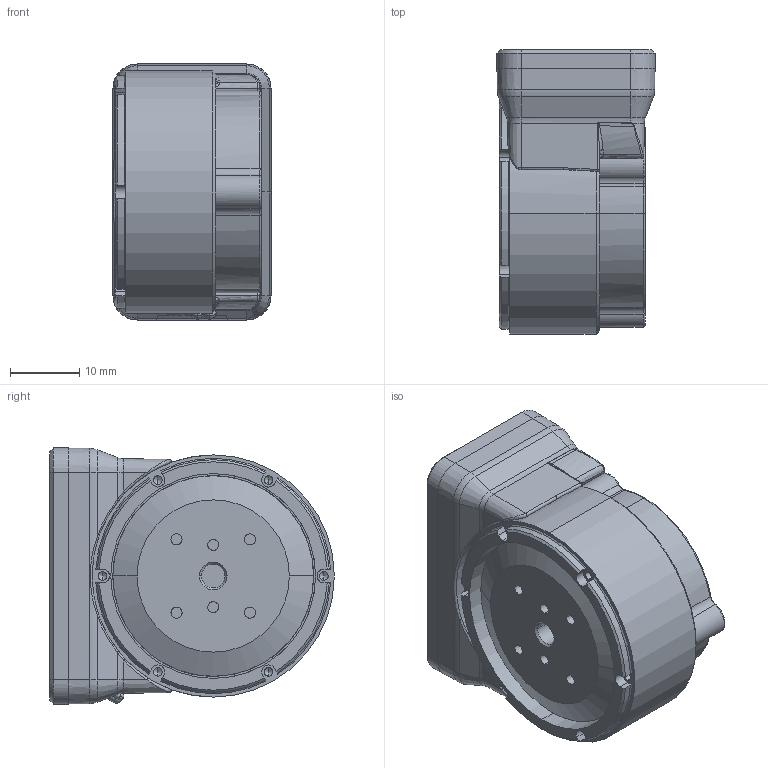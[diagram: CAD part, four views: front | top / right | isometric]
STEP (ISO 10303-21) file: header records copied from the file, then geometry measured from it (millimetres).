
FILE_DESCRIPTION (( 'STEP AP214' ), '1' );
FILE_NAME ('DD-EL20_v2_3.STEP', '2019-09-29T07:26:11', ( 'Microsoft' ), ( 'Microsoft' ), 'SwSTEP 2.0', 'SolidWorks 2018', '' );
FILE_SCHEMA (( 'AUTOMOTIVE_DESIGN' ));
Length unit declared in the file: millimetre
Products named in the file (1): DD-EL20_v2_3
Bounding box: 22.85 x 41.13 x 37 mm (x, y, z)
Volume: 20924.7 mm3; surface area: 18849.1 mm2
Topology: 18 solids, 18 shells, 1092 faces, 2636 edges, 1551 vertices
Faces by surface type: cylinder 382, plane 305, cone 246, bspline 80, torus 53, sphere 26
Entity records: 48074 total; most frequent: CARTESIAN_POINT 11864, ORIENTED_EDGE 5186, DIRECTION 4681, EDGE_CURVE 2593, AXIS2_PLACEMENT_3D 1709, VERTEX_POINT 1550, LINE 1263, VECTOR 1263
